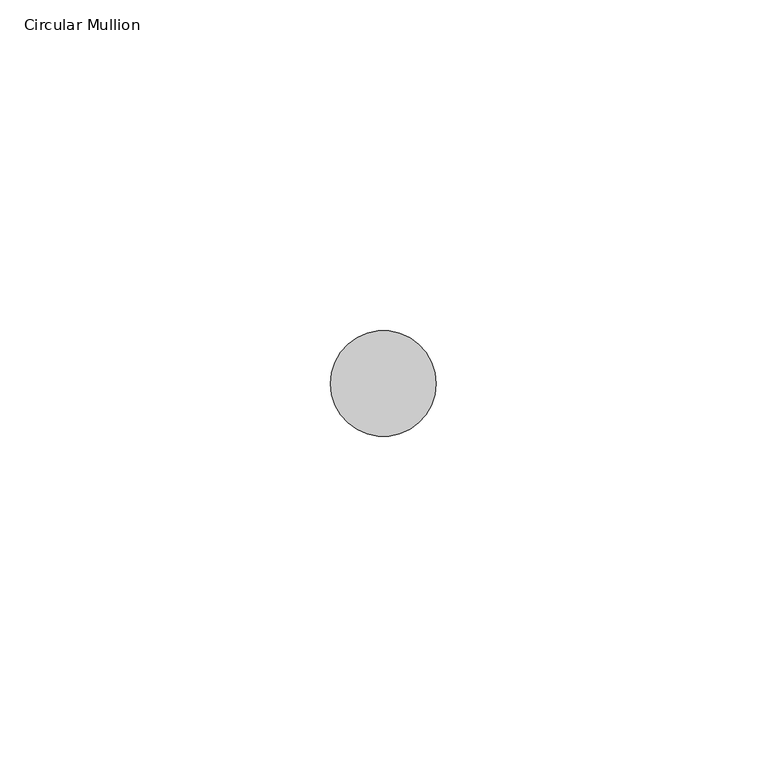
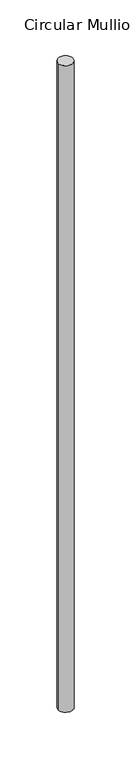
"""IFC4 building model written with IfcOpenShell, lengths in millimetres: member geometry, Circular Mullion : ARQ_HERR_16mm."""

from ifc_helpers import new_model, si_unit, point, frame, origin, origin_2d, place, context, project, spatial, circle_curve, trimmed, segment, composite_curve, outline, extrude, source, transform, mapped, element, save


def circular_mullion_3029fd08(model_context):
    return source(origin(), model_context, "Body", "SweptSolid", [
        extrude(outline(composite_curve([segment(trimmed(circle_curve(origin_2d(), 8.0), [point((8.0, 0.0))], [point((-8.0, 0.0))], False, "CARTESIAN"), True, "CONTINUOUS"), segment(trimmed(circle_curve(origin_2d(), 8.0), [point((-8.0, 0.0))], [point((8.0, 0.0))], False, "CARTESIAN"), True, "CONTINUOUS")], self_intersect=False)), frame((0.0, 0.0, -731.5298429), z_axis=(0.0, 0.0, 1.0), x_axis=(1.0, 0.0, 0.0)), (0.0, 0.0, 1.0), 731.5298429),
    ])


if __name__ == "__main__":
    model = new_model("IFC4")
    model_context = context("Model", 3, world=origin())
    ifc_project = project(units=[si_unit("LENGTHUNIT", "METRE", prefix="MILLI")], contexts=[model_context])
    site = spatial("IfcSite", under=ifc_project)
    building = spatial("IfcBuilding", under=site)
    placement = place(None, origin())
    circular_mullion_shape = circular_mullion_3029fd08(model_context)
    element("IfcMember", 1, ObjectType="Circular Mullion : ARQ_HERR_16mm", at=placement, inside=building, context=model_context, shape_type="MappedRepresentation", body=[
        mapped(circular_mullion_shape, transform((0.0, 0.0, 0.0), x_axis=(1.0, 0.0, 0.0), y_axis=(0.0, 1.0, 0.0), z_axis=(0.0, 0.0, 1.0))),
    ])
    save(model, "model.ifc")
